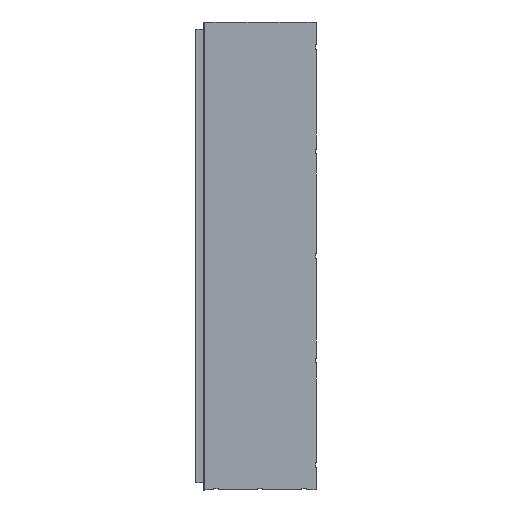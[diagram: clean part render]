
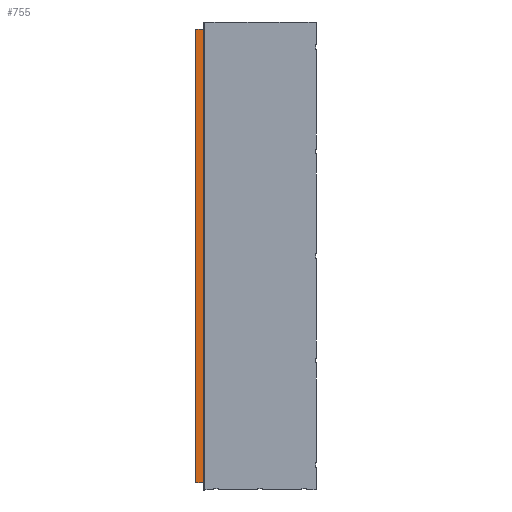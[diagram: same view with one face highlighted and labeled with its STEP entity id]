
A CAD part, top view. The second image highlights one B-rep face of the part: STEP entity #755.
In plain terms, the highlighted planar face has unit normal (0, 0, 1).
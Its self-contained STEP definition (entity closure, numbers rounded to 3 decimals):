
#16 = VERTEX_POINT ( 'NONE', #2109 ) ;
#53 = DIRECTION ( 'NONE',  ( 0., 1., 0. ) ) ;
#176 = ORIENTED_EDGE ( 'NONE', *, *, #227, .F. ) ;
#203 = LINE ( 'NONE', #1706, #1645 ) ;
#227 = EDGE_CURVE ( 'NONE', #1503, #2312, #1347, .T. ) ;
#309 = ORIENTED_EDGE ( 'NONE', *, *, #1279, .F. ) ;
#339 = VECTOR ( 'NONE', #1352, 1000. ) ;
#348 = PLANE ( 'NONE',  #2120 ) ;
#351 = EDGE_LOOP ( 'NONE', ( #176, #1941, #1845, #309 ) ) ;
#520 = EDGE_CURVE ( 'NONE', #16, #1147, #1539, .T. ) ;
#539 = CARTESIAN_POINT ( 'NONE',  ( -243.75, 1984., -25. ) ) ;
#540 = CARTESIAN_POINT ( 'NONE',  ( -276.75, 31., -25. ) ) ;
#630 = CARTESIAN_POINT ( 'NONE',  ( -241.75, 1984., -25. ) ) ;
#649 = CARTESIAN_POINT ( 'NONE',  ( -276.75, 31., -25. ) ) ;
#751 = DIRECTION ( 'NONE',  ( 1., 0., 0. ) ) ;
#755 = ADVANCED_FACE ( 'NONE', ( #1066 ), #348, .T. ) ;
#807 = DIRECTION ( 'NONE',  ( -1., 0., 0. ) ) ;
#886 = CARTESIAN_POINT ( 'NONE',  ( -243.75, 31., -25. ) ) ;
#1044 = EDGE_CURVE ( 'NONE', #1147, #1503, #1553, .T. ) ;
#1066 = FACE_OUTER_BOUND ( 'NONE', #351, .T. ) ;
#1120 = VECTOR ( 'NONE', #807, 1000. ) ;
#1147 = VERTEX_POINT ( 'NONE', #539 ) ;
#1279 = EDGE_CURVE ( 'NONE', #2312, #16, #203, .T. ) ;
#1347 = LINE ( 'NONE', #649, #1120 ) ;
#1352 = DIRECTION ( 'NONE',  ( 1., 0., 0. ) ) ;
#1357 = DIRECTION ( 'NONE',  ( 0., -1., 0. ) ) ;
#1453 = VECTOR ( 'NONE', #1357, 1000. ) ;
#1486 = CARTESIAN_POINT ( 'NONE',  ( 0., 0., -25. ) ) ;
#1503 = VERTEX_POINT ( 'NONE', #886 ) ;
#1539 = LINE ( 'NONE', #630, #339 ) ;
#1553 = LINE ( 'NONE', #1565, #1453 ) ;
#1565 = CARTESIAN_POINT ( 'NONE',  ( -243.75, 1984., -25. ) ) ;
#1645 = VECTOR ( 'NONE', #53, 1000. ) ;
#1655 = DIRECTION ( 'NONE',  ( 0., 0., 1. ) ) ;
#1706 = CARTESIAN_POINT ( 'NONE',  ( -276.75, 1984., -25. ) ) ;
#1845 = ORIENTED_EDGE ( 'NONE', *, *, #520, .F. ) ;
#1941 = ORIENTED_EDGE ( 'NONE', *, *, #1044, .F. ) ;
#2109 = CARTESIAN_POINT ( 'NONE',  ( -276.75, 1984., -25. ) ) ;
#2120 = AXIS2_PLACEMENT_3D ( 'NONE', #1486, #1655, #751 ) ;
#2312 = VERTEX_POINT ( 'NONE', #540 ) ;
